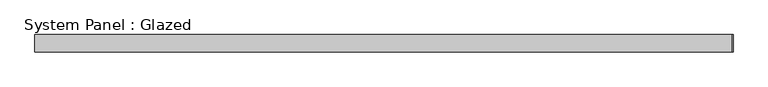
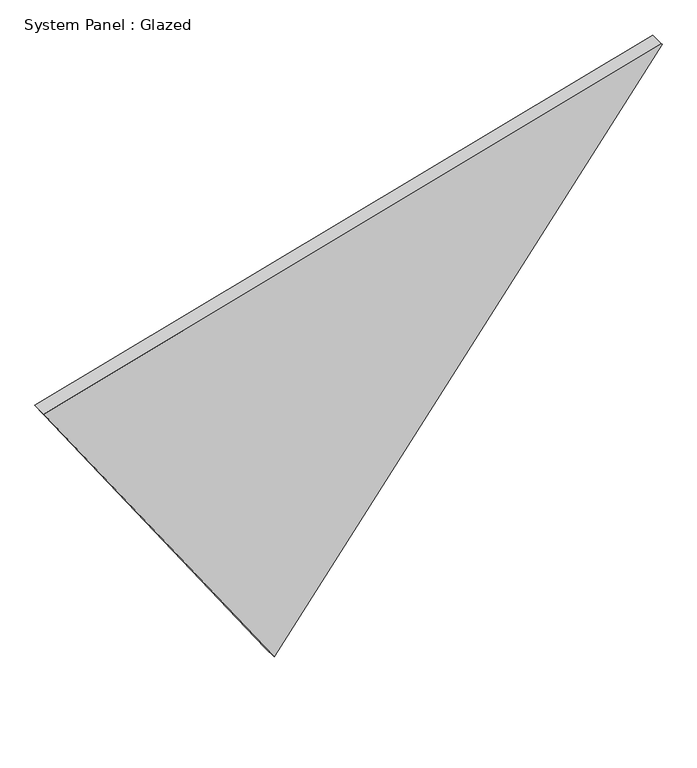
"""IFC4 building model written with IfcOpenShell, lengths in millimetres: plate geometry, System Panel : Glazed."""

from ifc_helpers import new_model, si_unit, frame, origin, place, context, project, spatial, polyline, outline, extrude, source, transform, mapped, element, save


def system_panel_glazed_898b3a03(model_context):
    return source(origin(), model_context, "Body", "SweptSolid", [
        extrude(outline(polyline([(559.1129266, -512.4332998), (0.0, -130.7261178), (847.9561995, 512.4332998), (849.2959874, 511.5186248), (559.1129266, -512.4332998)])), frame((0.0, -44.45, 0.0), z_axis=(0.0, 1.0, 0.0), x_axis=(0.0, 0.0, 1.0)), (0.0, 0.0, 1.0), 25.4),
    ])


if __name__ == "__main__":
    model = new_model("IFC4")
    model_context = context("Model", 3, world=origin())
    ifc_project = project(units=[si_unit("LENGTHUNIT", "METRE", prefix="MILLI")], contexts=[model_context])
    site = spatial("IfcSite", under=ifc_project)
    building = spatial("IfcBuilding", under=site)
    placement = place(None, origin())
    system_panel_glazed_shape = system_panel_glazed_898b3a03(model_context)
    element("IfcPlate", 1, ObjectType="System Panel : Glazed", at=placement, inside=building, context=model_context, shape_type="MappedRepresentation", body=[
        mapped(system_panel_glazed_shape, transform((0.0, 0.0, 0.0), x_axis=(1.0, 0.0, 0.0), y_axis=(0.0, 1.0, 0.0), z_axis=(0.0, 0.0, 1.0))),
    ])
    save(model, "model.ifc")
